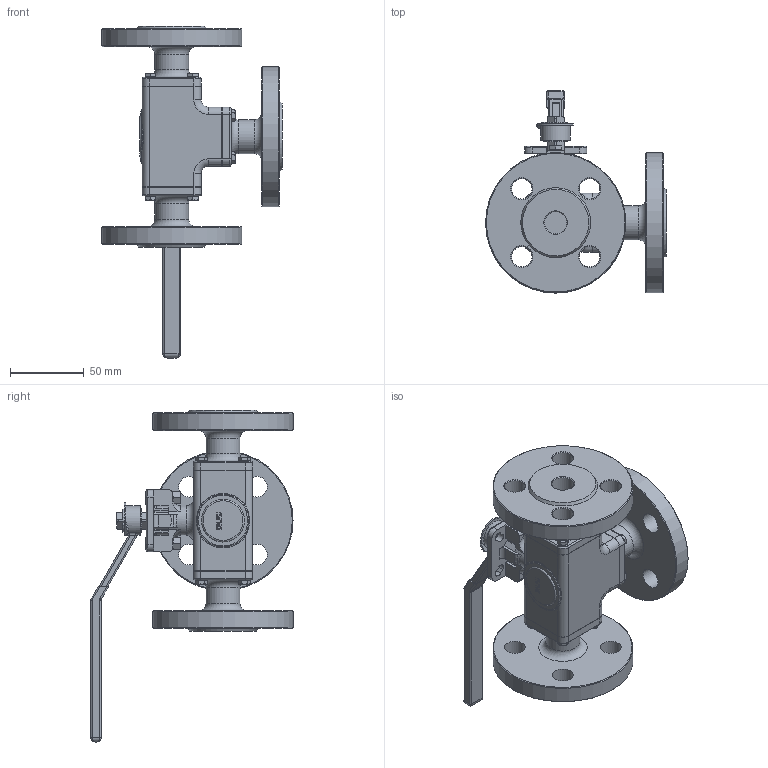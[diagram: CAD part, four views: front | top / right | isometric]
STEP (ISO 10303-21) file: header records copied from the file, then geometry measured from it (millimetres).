
FILE_DESCRIPTION(('STEP AP242'), '1');
FILE_NAME('BV3232P(4pc)-FP-3WL-F-ISO-H Êðàí øàðîâîé DN.ru Äó15 Ðó16', '', ('UNSPECIFIED'), ('UNSPECIFIED'), 'C3D Converter', 'C3D Toolkit', '');
FILE_SCHEMA(('AP242_MANAGED_MODEL_BASED_3D_ENGINEERING_MIM_LF { 1 0 10303 442 1 1 4 }'));
Length unit declared in the file: millimetre
Products named in the file (1): BV3232P(4pc)-FP-3WL-F-ISO-H
Bounding box: 122.5 x 137 x 225 mm (x, y, z)
Volume: 443428.4 mm3; surface area: 105482.5 mm2
Topology: 1 solids, 14 shells, 919 faces, 2209 edges, 1367 vertices
Faces by surface type: plane 476, cylinder 193, cone 132, bspline 74, torus 44
Full cylindrical faces by diameter (mm): 1.119 x2, 2 x1, 4 x24, 5 x14, 6 x2, 7 x12, 8 x2, 14 x12, 15 x3, 16 x2, 20 x2, 23 x3, 30 x3, 95 x3
Entity records: 44606 total; most frequent: CARTESIAN_POINT 19652, ORIENTED_EDGE 4164, DIRECTION 4008, EDGE_CURVE 2082, AXIS2_PLACEMENT_3D 1511, VERTEX_POINT 1367, EDGE_LOOP 1187, LINE 986
